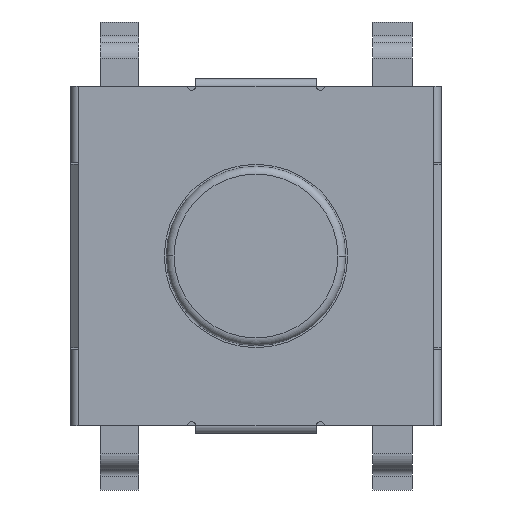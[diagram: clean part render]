
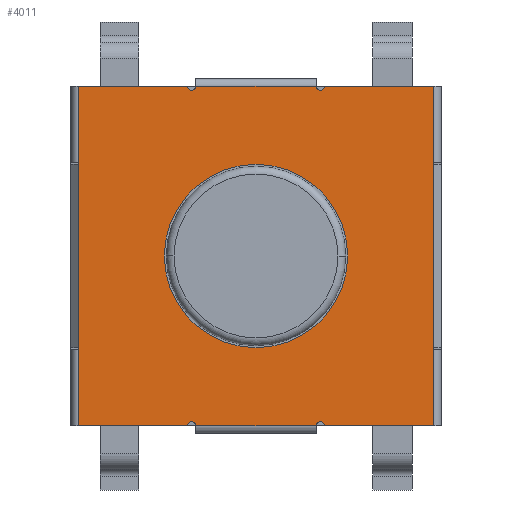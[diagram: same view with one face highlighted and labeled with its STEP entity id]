
A CAD part, front view. The second image highlights one B-rep face of the part: STEP entity #4011.
In plain terms, the highlighted planar face has unit normal (0, -1, 0).
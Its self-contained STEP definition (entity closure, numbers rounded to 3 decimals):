
#3109=CARTESIAN_POINT('',(0.,-0.1,0.));
#3110=DIRECTION('',(0.,1.,0.));
#3111=DIRECTION('',(1.,0.,0.));
#3112=AXIS2_PLACEMENT_3D('',#3109,#3110,#3111);
#3114=CARTESIAN_POINT('',(0.,-0.1,0.));
#3115=DIRECTION('',(0.,1.,0.));
#3116=DIRECTION('',(-1.,0.,0.));
#3117=AXIS2_PLACEMENT_3D('',#3114,#3115,#3116);
#3119=DIRECTION('',(1.,0.,0.));
#3120=VECTOR('',#3119,1.4);
#3121=CARTESIAN_POINT('',(0.875,-0.1,-2.175));
#3122=LINE('',#3121,#3120);
#3123=CARTESIAN_POINT('',(0.825,-0.1,-2.175));
#3124=DIRECTION('',(0.,-1.,0.));
#3125=DIRECTION('',(1.,0.,0.));
#3126=AXIS2_PLACEMENT_3D('',#3123,#3124,#3125);
#3128=CARTESIAN_POINT('',(-0.825,-0.1,-2.175));
#3129=DIRECTION('',(0.,1.,0.));
#3130=DIRECTION('',(-1.,0.,0.));
#3131=AXIS2_PLACEMENT_3D('',#3128,#3129,#3130);
#3133=DIRECTION('',(1.,0.,0.));
#3134=VECTOR('',#3133,1.4);
#3135=CARTESIAN_POINT('',(-2.275,-0.1,-2.175));
#3136=LINE('',#3135,#3134);
#3137=DIRECTION('',(-1.,0.,0.));
#3138=VECTOR('',#3137,1.4);
#3139=CARTESIAN_POINT('',(-0.875,-0.1,2.175));
#3140=LINE('',#3139,#3138);
#3141=CARTESIAN_POINT('',(-0.825,-0.1,2.175));
#3142=DIRECTION('',(0.,-1.,0.));
#3143=DIRECTION('',(-1.,0.,0.));
#3144=AXIS2_PLACEMENT_3D('',#3141,#3142,#3143);
#3146=CARTESIAN_POINT('',(0.825,-0.1,2.175));
#3147=DIRECTION('',(0.,1.,0.));
#3148=DIRECTION('',(1.,0.,0.));
#3149=AXIS2_PLACEMENT_3D('',#3146,#3147,#3148);
#3151=DIRECTION('',(-1.,0.,0.));
#3152=VECTOR('',#3151,1.4);
#3153=CARTESIAN_POINT('',(2.275,-0.1,2.175));
#3154=LINE('',#3153,#3152);
#3155=DIRECTION('',(0.,0.,-1.));
#3156=VECTOR('',#3155,0.975);
#3157=CARTESIAN_POINT('',(2.275,-0.1,-1.2));
#3158=LINE('',#3157,#3156);
#3173=DIRECTION('',(0.,0.,-1.));
#3174=VECTOR('',#3173,0.975);
#3175=CARTESIAN_POINT('',(2.275,-0.1,2.175));
#3176=LINE('',#3175,#3174);
#3219=DIRECTION('',(0.,0.,-1.));
#3220=VECTOR('',#3219,2.4);
#3221=CARTESIAN_POINT('',(2.275,-0.1,1.2));
#3222=LINE('',#3221,#3220);
#3269=DIRECTION('',(1.,0.,0.));
#3270=VECTOR('',#3269,1.55);
#3271=CARTESIAN_POINT('',(-0.775,-0.1,2.175));
#3272=LINE('',#3271,#3270);
#3353=DIRECTION('',(0.,0.,1.));
#3354=VECTOR('',#3353,0.975);
#3355=CARTESIAN_POINT('',(-2.275,-0.1,-2.175));
#3356=LINE('',#3355,#3354);
#3371=DIRECTION('',(0.,0.,1.));
#3372=VECTOR('',#3371,0.975);
#3373=CARTESIAN_POINT('',(-2.275,-0.1,1.2));
#3374=LINE('',#3373,#3372);
#3493=DIRECTION('',(0.,0.,1.));
#3494=VECTOR('',#3493,2.4);
#3495=CARTESIAN_POINT('',(-2.275,-0.1,-1.2));
#3496=LINE('',#3495,#3494);
#3539=DIRECTION('',(-1.,0.,0.));
#3540=VECTOR('',#3539,1.55);
#3541=CARTESIAN_POINT('',(0.775,-0.1,-2.175));
#3542=LINE('',#3541,#3540);
#3619=CARTESIAN_POINT('',(0.875,-0.1,2.175));
#3620=CARTESIAN_POINT('',(0.775,-0.1,2.175));
#3621=VERTEX_POINT('',#3619);
#3622=VERTEX_POINT('',#3620);
#3627=CARTESIAN_POINT('',(-0.875,-0.1,2.175));
#3628=CARTESIAN_POINT('',(-0.775,-0.1,2.175));
#3629=VERTEX_POINT('',#3627);
#3630=VERTEX_POINT('',#3628);
#3641=CARTESIAN_POINT('',(-0.875,-0.1,-2.175));
#3642=CARTESIAN_POINT('',(-0.775,-0.1,-2.175));
#3643=VERTEX_POINT('',#3641);
#3644=VERTEX_POINT('',#3642);
#3647=CARTESIAN_POINT('',(0.875,-0.1,-2.175));
#3648=CARTESIAN_POINT('',(0.775,-0.1,-2.175));
#3649=VERTEX_POINT('',#3647);
#3650=VERTEX_POINT('',#3648);
#3653=CARTESIAN_POINT('',(2.275,-0.1,-2.175));
#3654=VERTEX_POINT('',#3653);
#3655=CARTESIAN_POINT('',(2.275,-0.1,2.175));
#3656=VERTEX_POINT('',#3655);
#3669=CARTESIAN_POINT('',(-2.275,-0.1,2.175));
#3670=VERTEX_POINT('',#3669);
#3671=CARTESIAN_POINT('',(-2.275,-0.1,-2.175));
#3672=VERTEX_POINT('',#3671);
#3691=CARTESIAN_POINT('',(-2.275,-0.1,1.2));
#3692=VERTEX_POINT('',#3691);
#3693=CARTESIAN_POINT('',(-2.275,-0.1,-1.2));
#3694=VERTEX_POINT('',#3693);
#3711=CARTESIAN_POINT('',(2.275,-0.1,-1.2));
#3712=VERTEX_POINT('',#3711);
#3713=CARTESIAN_POINT('',(2.275,-0.1,1.2));
#3714=VERTEX_POINT('',#3713);
#3783=CARTESIAN_POINT('',(1.175,-0.1,0.));
#3784=CARTESIAN_POINT('',(-1.175,-0.1,0.));
#3785=VERTEX_POINT('',#3783);
#3786=VERTEX_POINT('',#3784);
#3969=CARTESIAN_POINT('',(0.,-0.1,0.));
#3970=DIRECTION('',(0.,-1.,0.));
#3971=DIRECTION('',(1.,0.,0.));
#3972=AXIS2_PLACEMENT_3D('',#3969,#3970,#3971);
#3973=PLANE('',#3972);
#3975=ORIENTED_EDGE('',*,*,#3974,.T.);
#3976=ORIENTED_EDGE('',*,*,#3893,.F.);
#3978=ORIENTED_EDGE('',*,*,#3977,.T.);
#3980=ORIENTED_EDGE('',*,*,#3979,.T.);
#3982=ORIENTED_EDGE('',*,*,#3981,.F.);
#3984=ORIENTED_EDGE('',*,*,#3983,.F.);
#3986=ORIENTED_EDGE('',*,*,#3985,.T.);
#3988=ORIENTED_EDGE('',*,*,#3987,.T.);
#3990=ORIENTED_EDGE('',*,*,#3989,.T.);
#3992=ORIENTED_EDGE('',*,*,#3991,.F.);
#3994=ORIENTED_EDGE('',*,*,#3993,.T.);
#3996=ORIENTED_EDGE('',*,*,#3995,.T.);
#3998=ORIENTED_EDGE('',*,*,#3997,.F.);
#4000=ORIENTED_EDGE('',*,*,#3999,.F.);
#4002=ORIENTED_EDGE('',*,*,#4001,.T.);
#4004=ORIENTED_EDGE('',*,*,#4003,.T.);
#4005=EDGE_LOOP('',(#3975,#3976,#3978,#3980,#3982,#3984,#3986,#3988,#3990,#3992,
#3994,#3996,#3998,#4000,#4002,#4004));
#4006=FACE_OUTER_BOUND('',#4005,.F.);
#4007=ORIENTED_EDGE('',*,*,#3949,.F.);
#4008=ORIENTED_EDGE('',*,*,#3963,.F.);
#4009=EDGE_LOOP('',(#4007,#4008));
#4010=FACE_BOUND('',#4009,.F.);
#3113=CIRCLE('',#3112,1.175);
#3118=CIRCLE('',#3117,1.175);
#3127=CIRCLE('',#3126,0.05);
#3132=CIRCLE('',#3131,0.05);
#3145=CIRCLE('',#3144,0.05);
#3150=CIRCLE('',#3149,0.05);
#3893=EDGE_CURVE('',#3649,#3654,#3122,.T.);
#3949=EDGE_CURVE('',#3785,#3786,#3113,.T.);
#3963=EDGE_CURVE('',#3786,#3785,#3118,.T.);
#3974=EDGE_CURVE('',#3712,#3654,#3158,.T.);
#3977=EDGE_CURVE('',#3649,#3650,#3127,.T.);
#3979=EDGE_CURVE('',#3650,#3644,#3542,.T.);
#3981=EDGE_CURVE('',#3643,#3644,#3132,.T.);
#3983=EDGE_CURVE('',#3672,#3643,#3136,.T.);
#3985=EDGE_CURVE('',#3672,#3694,#3356,.T.);
#3987=EDGE_CURVE('',#3694,#3692,#3496,.T.);
#3989=EDGE_CURVE('',#3692,#3670,#3374,.T.);
#3991=EDGE_CURVE('',#3629,#3670,#3140,.T.);
#3993=EDGE_CURVE('',#3629,#3630,#3145,.T.);
#3995=EDGE_CURVE('',#3630,#3622,#3272,.T.);
#3997=EDGE_CURVE('',#3621,#3622,#3150,.T.);
#3999=EDGE_CURVE('',#3656,#3621,#3154,.T.);
#4001=EDGE_CURVE('',#3656,#3714,#3176,.T.);
#4003=EDGE_CURVE('',#3714,#3712,#3222,.T.);
#4011=ADVANCED_FACE('',(#4006,#4010),#3973,.T.);
